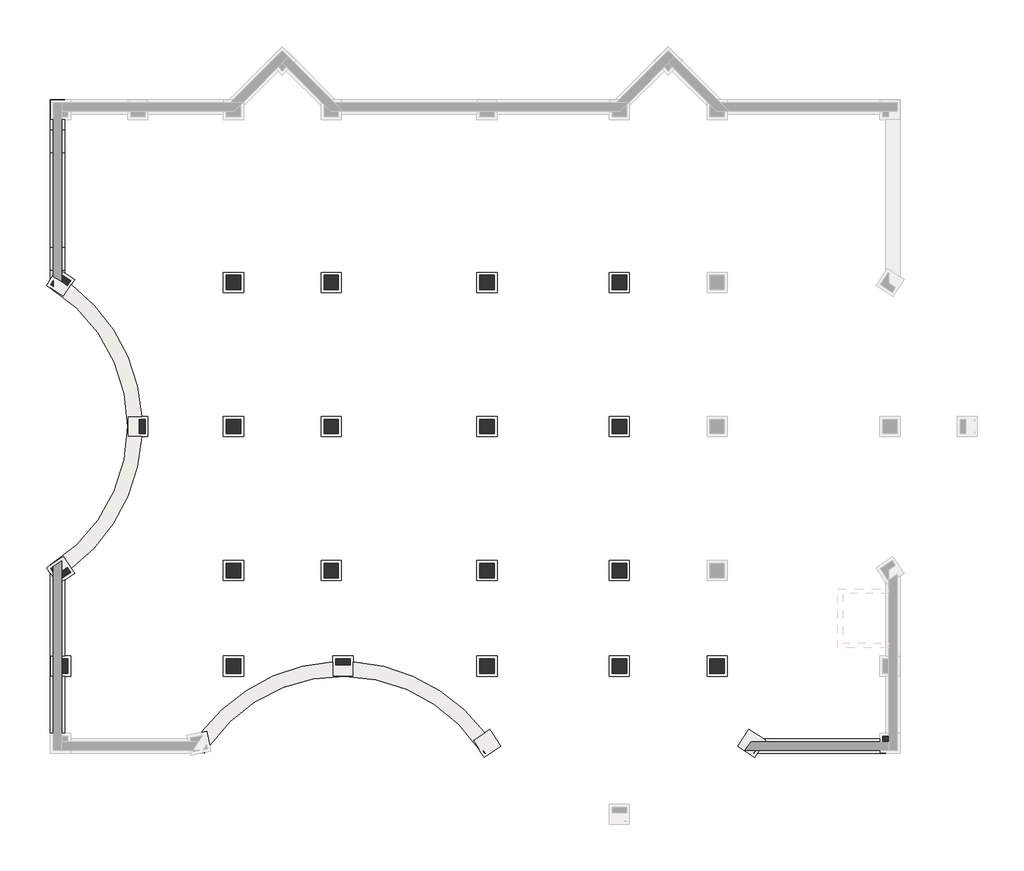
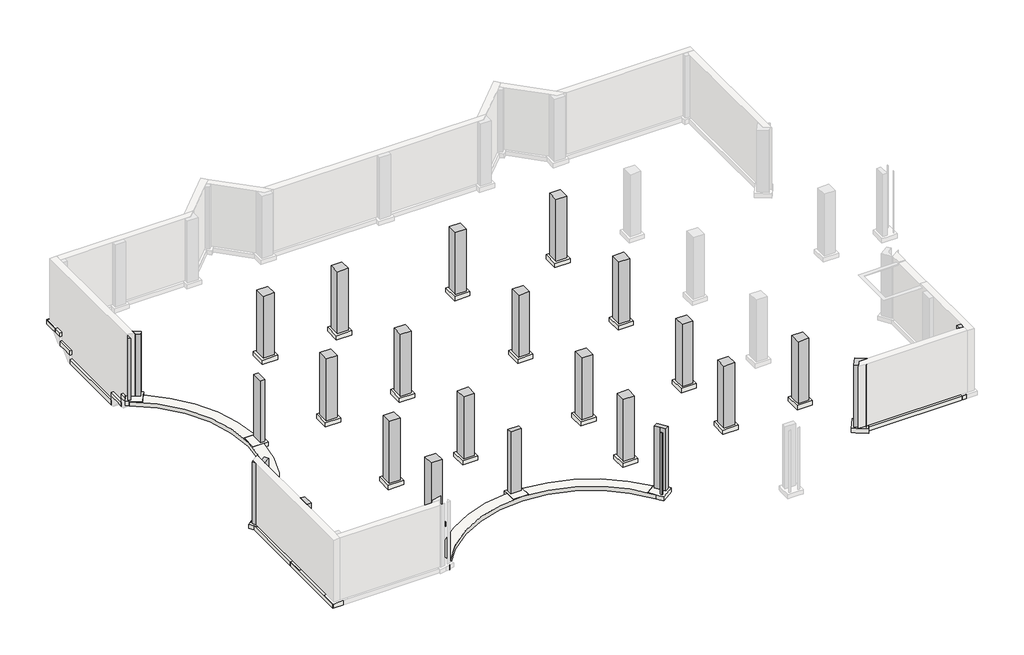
# One storey, part 2 of 3: 24 columns, 23 slabs, 5 footings.
"""IFC4 building model written with IfcOpenShell, lengths in millimetres."""

from ifc_helpers import new_model, si_unit, point, frame, frame_2d, origin, place, context, project, spatial, polyline, circle_curve, trimmed, segment, composite_curve, outline, extrude, faceted_brep, transform, mapped, element, save
from components import m_concrete_rectangular_column_762_x_762mm_e00174ba, m_footing_rectangular_1067_x_1067_x_305mm_e91fa160

model = new_model("IFC4")

# Units and contexts
model_context = context("Model", 3, world=origin())
ifc_project = project(units=[si_unit("LENGTHUNIT", "METRE", prefix="MILLI")], contexts=[model_context])

# Site, building, storey
site = spatial("IfcSite", under=ifc_project)
building = spatial("IfcBuilding", under=site)
storey = spatial("IfcBuildingStorey", under=building, Name="00 T.O.FOOTING", Elevation=-4572.0)

# Columns
placement = place(None, origin())
element("IfcColumn", 1, ObjectType="M_Concrete-Rectangular-Column : 762 x 762mm", at=placement, inside=storey, context=model_context, shape_type="SweptSolid", body=[
    extrude(outline(polyline([(536.575, 4625.575), (536.575, 3863.575), (228.5, 3863.575), (228.5, 4625.575), (536.575, 4625.575)])), frame((0.0, 0.0, -4572.0), z_axis=(0.0, 0.0, 1.0), x_axis=(1.0, 0.0, 0.0)), (0.0, 0.0, 1.0), 4572.0),
])
element("IfcColumn", 2, ObjectType="M_Concrete-Rectangular-Column : 762 x 762mm", at=placement, inside=storey, context=model_context, shape_type="SweptSolid", body=[
    extrude(outline(composite_curve([segment(polyline([(683.6806742, 9192.6806742), (228.5, 8890.7479726), (228.5, 9260.5379654)]), True, "CONTINUOUS"), segment(trimmed(circle_curve(frame_2d((-4898.9611805, 16919.575)), 9216.925), [point((228.5, 9260.5379654))], [point((509.0310463, 9455.9748948))], True, "CARTESIAN"), True, "CONTINUOUS"), segment(polyline([(509.0310463, 9455.9748948), (683.6806742, 9192.6806742)]), True, "CONTINUOUS")], self_intersect=False)), frame((0.0, 0.0, -4572.0), z_axis=(0.0, 0.0, 1.0), x_axis=(1.0, 0.0, 0.0)), (0.0, 0.0, 1.0), 4572.0),
    extrude(outline(polyline([(-228.5, 9189.3349146), (-372.5306742, 9406.4693258), (-228.5, 9502.0084667), (-228.5, 9189.3349146)])), frame((0.0, 0.0, -4572.0), z_axis=(0.0, 0.0, 1.0), x_axis=(1.0, 0.0, 0.0)), (0.0, 0.0, 1.0), 4572.0),
])
element("IfcColumn", 3, ObjectType="M_Concrete-Rectangular-Column : 762 x 762mm", at=placement, inside=storey, context=model_context, shape_type="SweptSolid", body=[
    extrude(outline(composite_curve([segment(polyline([(4625.575, 17300.575), (4625.575, 16538.575), (4310.0857547, 16538.575)]), True, "CONTINUOUS"), segment(trimmed(circle_curve(frame_2d((-4898.9611805, 16919.575)), 9216.925), [point((4310.0857547, 16538.575))], [point((4310.0857547, 17300.575))], True, "CARTESIAN"), True, "CONTINUOUS"), segment(polyline([(4310.0857547, 17300.575), (4625.575, 17300.575)]), True, "CONTINUOUS")], self_intersect=False)), frame((0.0, 0.0, -4572.0), z_axis=(0.0, 0.0, 1.0), x_axis=(1.0, 0.0, 0.0)), (0.0, 0.0, 1.0), 4572.0),
])
element("IfcColumn", 4, ObjectType="M_Concrete-Rectangular-Column : 762 x 762mm", at=placement, inside=storey, context=model_context, shape_type="SweptSolid", body=[
    extrude(outline(polyline([(-228.5, 24337.1415333), (-372.5306742, 24432.6806742), (-228.5, 24649.8150854), (-228.5, 24337.1415333)])), frame((0.0, 0.0, -4572.0), z_axis=(0.0, 0.0, 1.0), x_axis=(1.0, 0.0, 0.0)), (0.0, 0.0, 1.0), 4572.0),
    extrude(outline(composite_curve([segment(polyline([(683.6806742, 24646.4693258), (509.0310463, 24383.1751052)]), True, "CONTINUOUS"), segment(trimmed(circle_curve(frame_2d((-4898.9611805, 16919.575)), 9216.925), [point((509.0310463, 24383.1751052))], [point((228.5, 24578.6120346))], True, "CARTESIAN"), True, "CONTINUOUS"), segment(polyline([(228.5, 24578.6120346), (228.5, 24948.4020274), (683.6806742, 24646.4693258)]), True, "CONTINUOUS")], self_intersect=False)), frame((0.0, 0.0, -4572.0), z_axis=(0.0, 0.0, 1.0), x_axis=(1.0, 0.0, 0.0)), (0.0, 0.0, 1.0), 4572.0),
])
element("IfcColumn", 5, ObjectType="M_Concrete-Rectangular-Column : 762 x 762mm", at=placement, inside=storey, context=model_context, shape_type="SweptSolid", body=[
    extrude(outline(polyline([(43646.575, 536.575), (43955.9050515, 536.575), (43955.9050515, 228.5), (43646.575, 228.5), (43646.575, 536.575)])), frame((0.0, 0.0, -4572.0), z_axis=(0.0, 0.0, 1.0), x_axis=(1.0, 0.0, 0.0)), (0.0, 0.0, 1.0), 4572.0),
])
element("IfcColumn", 6, ObjectType="M_Concrete-Rectangular-Column : 762 x 762mm", at=placement, inside=storey, context=model_context, shape_type="SweptSolid", body=[
    extrude(outline(composite_curve([segment(polyline([(36919.0568544, -228.5), (36823.5716175, -372.5099589), (36817.2005535, -368.28565)]), True, "CONTINUOUS"), segment(trimmed(circle_curve(frame_2d((29712.2025257, 4799.7966199)), 8785.7880309), [point((36817.2005535, -368.28565))], [point((36916.8055284, -228.5))], True, "CARTESIAN"), True, "CONTINUOUS"), segment(polyline([(36916.8055284, -228.5), (36919.0568544, -228.5)]), True, "CONTINUOUS")], self_intersect=False)), frame((0.0, 0.0, -4572.0), z_axis=(0.0, 0.0, 1.0), x_axis=(1.0, 0.0, 0.0)), (0.0, 0.0, 1.0), 4572.0),
    extrude(outline(composite_curve([segment(polyline([(36188.4900411, 48.5783825), (36609.5783825, 683.6599589), (37244.6599589, 262.5716175), (37222.0689069, 228.5), (36674.383023, 228.5)]), True, "CONTINUOUS"), segment(trimmed(circle_curve(frame_2d((29712.2025257, 4799.7966199)), 8328.7880309), [point((36674.383023, 228.5))], [point((36435.9399442, -115.4923025))], False, "CARTESIAN"), True, "CONTINUOUS"), segment(polyline([(36435.9399442, -115.4923025), (36188.4900411, 48.5783825)]), True, "CONTINUOUS")], self_intersect=False)), frame((0.0, 0.0, -4572.0), z_axis=(0.0, 0.0, 1.0), x_axis=(1.0, 0.0, 0.0)), (0.0, 0.0, 1.0), 4572.0),
])
element("IfcColumn", 7, ObjectType="M_Concrete-Rectangular-Column : 762 x 762mm", at=placement, inside=storey, context=model_context, shape_type="SweptSolid", body=[
    extrude(outline(composite_curve([segment(polyline([(22608.1376648, -369.5683097), (22603.6737252, -372.5292676), (22518.0198315, -243.3974756)]), True, "CONTINUOUS"), segment(trimmed(circle_curve(frame_2d((29712.2025257, 4799.7966199)), 8785.7880309), [point((22518.0198315, -243.3974756))], [point((22608.1376648, -369.5683097))], True, "CARTESIAN"), True, "CONTINUOUS")], self_intersect=False)), frame((0.0, 0.0, -4572.0), z_axis=(0.0, 0.0, 1.0), x_axis=(1.0, 0.0, 0.0)), (0.0, 0.0, 1.0), 4572.0),
    extrude(outline(composite_curve([segment(polyline([(22817.4762748, 683.6792676), (23238.6792676, 48.6737252), (22989.3526284, -116.7061331)]), True, "CONTINUOUS"), segment(trimmed(circle_curve(frame_2d((29712.2025257, 4799.7966199)), 8328.7880309), [point((22989.3526284, -116.7061331))], [point((22771.5458333, 195.8858105))], False, "CARTESIAN"), True, "CONTINUOUS"), segment(trimmed(circle_curve(frame_2d((15090.775, -4898.9611805)), 9216.925), [point((22771.5458333, 195.8858105))], [point((22554.3106858, 509.1199507))], True, "CARTESIAN"), True, "CONTINUOUS"), segment(polyline([(22554.3106858, 509.1199507), (22817.4762748, 683.6792676)]), True, "CONTINUOUS")], self_intersect=False)), frame((0.0, 0.0, -4572.0), z_axis=(0.0, 0.0, 1.0), x_axis=(1.0, 0.0, 0.0)), (0.0, 0.0, 1.0), 4572.0),
])
element("IfcColumn", 8, ObjectType="M_Concrete-Rectangular-Column : 762 x 762mm", at=placement, inside=storey, context=model_context, shape_type="SweptSolid", body=[
    extrude(outline(composite_curve([segment(polyline([(14709.575, 4625.575), (15471.575, 4625.575), (15471.575, 4310.094027)]), True, "CONTINUOUS"), segment(trimmed(circle_curve(frame_2d((15090.775, -4898.9611805)), 9216.925), [point((15471.575, 4310.094027))], [point((14709.575, 4310.0774781))], True, "CARTESIAN"), True, "CONTINUOUS"), segment(polyline([(14709.575, 4310.0774781), (14709.575, 4625.575)]), True, "CONTINUOUS")], self_intersect=False)), frame((0.0, 0.0, -4572.0), z_axis=(0.0, 0.0, 1.0), x_axis=(1.0, 0.0, 0.0)), (0.0, 0.0, 1.0), 4572.0),
])
m_concrete_rectangular_column_762_x_762mm_shape = m_concrete_rectangular_column_762_x_762mm_e00174ba(model_context)
element("IfcColumn", 9, ObjectType="M_Concrete-Rectangular-Column : 762 x 762mm", at=placement, inside=storey, context=model_context, shape_type="MappedRepresentation", body=[
    mapped(m_concrete_rectangular_column_762_x_762mm_shape, transform((9299.575, 24539.575, 0.0), x_axis=(1.0, 0.0, 0.0), y_axis=(0.0, 1.0, 0.0), z_axis=(0.0, 0.0, 1.0))),
])
element("IfcColumn", 10, ObjectType="M_Concrete-Rectangular-Column : 762 x 762mm", at=placement, inside=storey, context=model_context, shape_type="MappedRepresentation", body=[
    mapped(m_concrete_rectangular_column_762_x_762mm_shape, transform((9299.575, 16919.575, 0.0), x_axis=(1.0, 0.0, 0.0), y_axis=(0.0, 1.0, 0.0), z_axis=(0.0, 0.0, 1.0))),
])
element("IfcColumn", 11, ObjectType="M_Concrete-Rectangular-Column : 762 x 762mm", at=placement, inside=storey, context=model_context, shape_type="MappedRepresentation", body=[
    mapped(m_concrete_rectangular_column_762_x_762mm_shape, transform((9299.575, 9299.575, 0.0), x_axis=(1.0, 0.0, 0.0), y_axis=(0.0, 1.0, 0.0), z_axis=(0.0, 0.0, 1.0))),
])
element("IfcColumn", 12, ObjectType="M_Concrete-Rectangular-Column : 762 x 762mm", at=placement, inside=storey, context=model_context, shape_type="MappedRepresentation", body=[
    mapped(m_concrete_rectangular_column_762_x_762mm_shape, transform((9299.575, 4244.575, 0.0), x_axis=(1.0, 0.0, 0.0), y_axis=(0.0, 1.0, 0.0), z_axis=(0.0, 0.0, 1.0))),
])
element("IfcColumn", 13, ObjectType="M_Concrete-Rectangular-Column : 762 x 762mm", at=placement, inside=storey, context=model_context, shape_type="MappedRepresentation", body=[
    mapped(m_concrete_rectangular_column_762_x_762mm_shape, transform((14471.575, 24539.575, 0.0), x_axis=(1.0, 0.0, 0.0), y_axis=(0.0, 1.0, 0.0), z_axis=(0.0, 0.0, 1.0))),
])
element("IfcColumn", 14, ObjectType="M_Concrete-Rectangular-Column : 762 x 762mm", at=placement, inside=storey, context=model_context, shape_type="MappedRepresentation", body=[
    mapped(m_concrete_rectangular_column_762_x_762mm_shape, transform((14471.575, 16919.575, 0.0), x_axis=(1.0, 0.0, 0.0), y_axis=(0.0, 1.0, 0.0), z_axis=(0.0, 0.0, 1.0))),
])
element("IfcColumn", 15, ObjectType="M_Concrete-Rectangular-Column : 762 x 762mm", at=placement, inside=storey, context=model_context, shape_type="MappedRepresentation", body=[
    mapped(m_concrete_rectangular_column_762_x_762mm_shape, transform((14471.575, 9299.575, 0.0), x_axis=(1.0, 0.0, 0.0), y_axis=(0.0, 1.0, 0.0), z_axis=(0.0, 0.0, 1.0))),
])
element("IfcColumn", 16, ObjectType="M_Concrete-Rectangular-Column : 762 x 762mm", at=placement, inside=storey, context=model_context, shape_type="MappedRepresentation", body=[
    mapped(m_concrete_rectangular_column_762_x_762mm_shape, transform((22710.575, 24539.575, 0.0), x_axis=(1.0, 0.0, 0.0), y_axis=(0.0, 1.0, 0.0), z_axis=(0.0, 0.0, 1.0))),
])
element("IfcColumn", 17, ObjectType="M_Concrete-Rectangular-Column : 762 x 762mm", at=placement, inside=storey, context=model_context, shape_type="MappedRepresentation", body=[
    mapped(m_concrete_rectangular_column_762_x_762mm_shape, transform((22710.575, 16919.575, 0.0), x_axis=(1.0, 0.0, 0.0), y_axis=(0.0, 1.0, 0.0), z_axis=(0.0, 0.0, 1.0))),
])
element("IfcColumn", 18, ObjectType="M_Concrete-Rectangular-Column : 762 x 762mm", at=placement, inside=storey, context=model_context, shape_type="MappedRepresentation", body=[
    mapped(m_concrete_rectangular_column_762_x_762mm_shape, transform((22710.575, 9299.575, 0.0), x_axis=(1.0, 0.0, 0.0), y_axis=(0.0, 1.0, 0.0), z_axis=(0.0, 0.0, 1.0))),
])
element("IfcColumn", 19, ObjectType="M_Concrete-Rectangular-Column : 762 x 762mm", at=placement, inside=storey, context=model_context, shape_type="MappedRepresentation", body=[
    mapped(m_concrete_rectangular_column_762_x_762mm_shape, transform((29711.575, 24539.575, 0.0), x_axis=(1.0, 0.0, 0.0), y_axis=(0.0, 1.0, 0.0), z_axis=(0.0, 0.0, 1.0))),
])
element("IfcColumn", 20, ObjectType="M_Concrete-Rectangular-Column : 762 x 762mm", at=placement, inside=storey, context=model_context, shape_type="MappedRepresentation", body=[
    mapped(m_concrete_rectangular_column_762_x_762mm_shape, transform((29711.575, 16919.575, 0.0), x_axis=(1.0, 0.0, 0.0), y_axis=(0.0, 1.0, 0.0), z_axis=(0.0, 0.0, 1.0))),
])
element("IfcColumn", 21, ObjectType="M_Concrete-Rectangular-Column : 762 x 762mm", at=placement, inside=storey, context=model_context, shape_type="MappedRepresentation", body=[
    mapped(m_concrete_rectangular_column_762_x_762mm_shape, transform((29711.575, 9299.575, 0.0), x_axis=(1.0, 0.0, 0.0), y_axis=(0.0, 1.0, 0.0), z_axis=(0.0, 0.0, 1.0))),
])
element("IfcColumn", 22, ObjectType="M_Concrete-Rectangular-Column : 762 x 762mm", at=placement, inside=storey, context=model_context, shape_type="MappedRepresentation", body=[
    mapped(m_concrete_rectangular_column_762_x_762mm_shape, transform((22710.575, 4244.575, 0.0), x_axis=(1.0, 0.0, 0.0), y_axis=(0.0, 1.0, 0.0), z_axis=(0.0, 0.0, 1.0))),
])
element("IfcColumn", 23, ObjectType="M_Concrete-Rectangular-Column : 762 x 762mm", at=placement, inside=storey, context=model_context, shape_type="MappedRepresentation", body=[
    mapped(m_concrete_rectangular_column_762_x_762mm_shape, transform((29711.575, 4244.575, 0.0), x_axis=(1.0, 0.0, 0.0), y_axis=(0.0, 1.0, 0.0), z_axis=(0.0, 0.0, 1.0))),
])
element("IfcColumn", 24, ObjectType="M_Concrete-Rectangular-Column : 762 x 762mm", at=placement, inside=storey, context=model_context, shape_type="MappedRepresentation", body=[
    mapped(m_concrete_rectangular_column_762_x_762mm_shape, transform((34883.575, 4244.575, 0.0), x_axis=(1.0, 0.0, 0.0), y_axis=(0.0, 1.0, 0.0), z_axis=(0.0, 0.0, 1.0))),
])

# Footings
element("IfcFooting", 25, ObjectType="Bearing Footing - 762 x 305", at=placement, inside=storey, context=model_context, shape_type="SweptSolid", body=[
    extrude(outline(polyline([(381.0, -381.0), (-381.0, -381.0), (-381.0, 9143.3544346), (5.8948876, 8560.0884457), (381.0, 8808.9050287), (381.0, 4778.075), (-377.925, 4778.075), (-377.925, 3711.075), (381.0, 3711.075), (381.0, 689.075), (-377.925, 689.075), (-377.925, -377.925), (381.0, -377.925), (381.0, -381.0)])), frame((0.0, 0.0, -4877.0), z_axis=(0.0, 0.0, 1.0), x_axis=(1.0, 0.0, 0.0)), (0.0, 0.0, 1.0), 305.0),
    extrude(outline(polyline([(-381.0, 9583.8514106), (-381.0, 9593.198549), (-373.2506488, 9588.9917487), (-381.0, 9583.8514106)])), frame((0.0, 0.0, -4877.0), z_axis=(0.0, 0.0, 1.0), x_axis=(1.0, 0.0, 0.0)), (0.0, 0.0, 1.0), 305.0),
])
element("IfcFooting", 26, ObjectType="Bearing Footing - 762 x 305", at=placement, inside=storey, context=model_context, shape_type="SweptSolid", body=[
    extrude(outline(composite_curve([segment(trimmed(circle_curve(frame_2d((-4898.9611805, 16919.575)), 8607.425), [point((-381.0, 9593.198549))], [point((-381.0, 24245.951451))], True, "CARTESIAN"), True, "CONTINUOUS"), segment(polyline([(-381.0, 24245.951451), (-373.2506488, 24250.1582513), (305.2551124, 23800.0884457), (716.3639016, 24419.8582648)]), True, "CONTINUOUS"), segment(trimmed(circle_curve(frame_2d((-4898.9611805, 16919.575)), 9369.425), [point((716.3639016, 24419.8582648))], [point((4455.2626024, 17453.075))], False, "CARTESIAN"), True, "CONTINUOUS"), segment(polyline([(4455.2626024, 17453.075), (3711.075, 17453.075), (3711.075, 16386.075), (4455.2626024, 16386.075)]), True, "CONTINUOUS"), segment(trimmed(circle_curve(frame_2d((-4898.9611805, 16919.575)), 9369.425), [point((4455.2626024, 16386.075))], [point((716.3639016, 9419.2917352))], False, "CARTESIAN"), True, "CONTINUOUS"), segment(polyline([(716.3639016, 9419.2917352), (305.2551124, 10039.0615543), (-373.2506488, 9588.9917487), (-381.0, 9593.198549)]), True, "CONTINUOUS")], self_intersect=False)), frame((0.0, 0.0, -4877.0), z_axis=(0.0, 0.0, 1.0), x_axis=(1.0, 0.0, 0.0)), (0.0, 0.0, 1.0), 305.0),
])
element("IfcFooting", 27, ObjectType="Bearing Footing - 762 x 305", at=placement, inside=storey, context=model_context, shape_type="Brep", body=[
    faceted_brep([(-381.0, 25169.9586136, -4877.0), (-381.0, 25169.9586136, -4572.0), (-66.4758159, 25169.9586136, -4572.0), (-66.4758159, 25169.9586136, -4877.0), (-381.0, 24695.7955654, -4572.0), (-381.0, 24695.7955654, -4877.0)], [[[0, 1, 2, 3]], [[1, 4, 2]], [[1, 0, 5, 4]], [[5, 0, 3]], [[2, 4, 5, 3]]]),
    faceted_brep([(381.0, 25169.9586136, -4572.0), (381.0, 25169.9586136, -4877.0), (170.3737593, 25169.9586136, -4877.0), (170.3737593, 25169.9586136, -4572.0), (381.0, 25030.2449713, -4572.0), (381.0, 25030.2449713, -4877.0)], [[[0, 1, 2, 3]], [[4, 0, 3]], [[1, 5, 2]], [[1, 0, 4, 5]], [[4, 3, 2, 5]]]),
    faceted_brep([(-381.0, 24245.951451, -4572.0), (-373.2506488, 24250.1582513, -4572.0), (-381.0, 24255.2985894, -4572.0), (-381.0, 24245.951451, -4877.0), (-381.0, 24255.2985894, -4877.0), (-373.2506488, 24250.1582513, -4877.0)], [[[0, 1, 2]], [[3, 0, 2, 4]], [[3, 4, 5]], [[0, 3, 5, 1]], [[2, 1, 5, 4]]]),
    faceted_brep([(-377.925, 34217.075, -4877.0), (-377.925, 34217.075, -4572.0), (-377.925, 33150.075, -4572.0), (-377.925, 33150.075, -4877.0), (381.0, 33150.075, -4572.0), (381.0, 33150.075, -4877.0), (381.0, 34217.075, -4877.0), (381.0, 34217.075, -4572.0), (-381.0, 32620.15, -4572.0), (-381.0, 32620.15, -4877.0), (381.0, 32620.15, -4877.0), (381.0, 32620.15, -4572.0), (-381.0, 34220.15, -4572.0), (381.0, 34220.15, -4572.0), (-381.0, 34220.15, -4877.0), (-381.0, 33430.15, -4877.0), (381.0, 34220.15, -4877.0)], [[[0, 1, 2, 3]], [[3, 2, 4, 5]], [[1, 0, 6, 7]], [[8, 9, 10, 11]], [[12, 8, 11, 4, 2, 1, 7, 13]], [[9, 8, 12, 14, 15]], [[10, 9, 15, 14, 16, 6, 0, 3, 5]], [[11, 10, 5, 4]], [[16, 13, 7, 6]], [[12, 13, 16, 14]]]),
    faceted_brep([(-381.0, 25169.9586136, -5182.0), (-381.0, 25169.9586136, -5487.0), (381.0, 25169.9586136, -5487.0), (381.0, 25169.9586136, -5182.0), (-381.0, 26388.9586136, -5487.0), (-381.0, 26388.9586136, -5182.0), (381.0, 26388.9586136, -5182.0), (381.0, 26388.9586136, -5487.0), (-381.0, 25578.9586136, -5487.0), (381.0, 25578.9586136, -5487.0)], [[[0, 1, 2, 3]], [[4, 5, 6, 7]], [[5, 0, 3, 6]], [[1, 0, 5, 4, 8]], [[2, 1, 8, 4, 7, 9]], [[3, 2, 9, 7, 6]]]),
    faceted_brep([(-381.0, 26388.9586136, -5792.0), (-381.0, 26388.9586136, -6097.0), (381.0, 26388.9586136, -6097.0), (381.0, 26388.9586136, -5792.0), (-381.0, 31401.15, -6097.0), (-381.0, 31401.15, -5792.0), (381.0, 31401.15, -5792.0), (381.0, 31401.15, -6097.0)], [[[0, 1, 2, 3]], [[4, 5, 6, 7]], [[5, 0, 3, 6]], [[1, 0, 5, 4]], [[2, 1, 4, 7]], [[3, 2, 7, 6]]]),
    faceted_brep([(-381.0, 31401.15, -5182.0), (-381.0, 31401.15, -5487.0), (381.0, 31401.15, -5487.0), (381.0, 31401.15, -5182.0), (-381.0, 32620.15, -5487.0), (-381.0, 32620.15, -5182.0), (381.0, 32620.15, -5182.0), (381.0, 32620.15, -5487.0), (-381.0, 32211.15, -5487.0), (381.0, 32211.15, -5487.0)], [[[0, 1, 2, 3]], [[4, 5, 6, 7]], [[5, 0, 3, 6]], [[1, 0, 5, 4, 8]], [[2, 1, 8, 4, 7, 9]], [[3, 2, 9, 7, 6]]]),
])
element("IfcFooting", 28, ObjectType="Bearing Footing - 762 x 305", at=placement, inside=storey, context=model_context, shape_type="SweptSolid", body=[
    extrude(outline(polyline([(43803.4050515, -377.925), (43803.4050515, -381.0), (37000.9188228, -381.0), (37456.0325475, 305.3983476), (37342.0108284, 381.0), (43494.075, 381.0), (43494.075, -377.925), (43803.4050515, -377.925)])), frame((0.0, 0.0, -4877.0), z_axis=(0.0, 0.0, 1.0), x_axis=(1.0, 0.0, 0.0)), (0.0, 0.0, 1.0), 305.0),
])
element("IfcFooting", 29, ObjectType="Bearing Footing - 762 x 305", at=placement, inside=storey, context=model_context, shape_type="SweptSolid", body=[
    extrude(outline(composite_curve([segment(polyline([(22266.0527765, -139.4203502), (22263.6291667, -141.0279911)]), True, "CONTINUOUS"), segment(trimmed(circle_curve(frame_2d((15090.775, -4898.9611805)), 8607.425), [point((22263.6291667, -141.0279911))], [point((8040.0893954, 38.2037586))], True, "CARTESIAN"), True, "CONTINUOUS"), segment(polyline([(8040.0893954, 38.2037586), (7883.7645661, 786.8585199), (7598.7213809, 727.3393268)]), True, "CONTINUOUS"), segment(trimmed(circle_curve(frame_2d((15090.775, -4898.9611805)), 9369.425), [point((7598.7213809, 727.3393268))], [point((14557.075, 4455.2511936))], False, "CARTESIAN"), True, "CONTINUOUS"), segment(polyline([(14557.075, 4455.2511936), (14557.075, 3711.075), (15624.075, 3711.075), (15624.075, 4455.2740069)]), True, "CONTINUOUS"), segment(trimmed(circle_curve(frame_2d((15090.775, -4898.9611805)), 9369.425), [point((15624.075, 4455.2740069))], [point((22590.9935606, 716.4503248))], False, "CARTESIAN"), True, "CONTINUOUS"), segment(polyline([(22590.9935606, 716.4503248), (21971.0904153, 305.2648427), (22266.0527765, -139.4203502)]), True, "CONTINUOUS")], self_intersect=False)), frame((0.0, 0.0, -4877.0), z_axis=(0.0, 0.0, 1.0), x_axis=(1.0, 0.0, 0.0)), (0.0, 0.0, 1.0), 305.0),
    extrude(outline(composite_curve([segment(trimmed(circle_curve(frame_2d((15090.775, -4898.9611805)), 8607.425), [point((7802.2589542, -320.1732425))], [point((7764.398549, -381.0))], True, "CARTESIAN"), True, "CONTINUOUS"), segment(polyline([(7764.398549, -381.0), (7738.5947592, -333.4668124), (7802.2589542, -320.1732425)]), True, "CONTINUOUS")], self_intersect=False)), frame((0.0, 0.0, -4877.0), z_axis=(0.0, 0.0, 1.0), x_axis=(1.0, 0.0, 0.0)), (0.0, 0.0, 1.0), 305.0),
])

# Slabs
element("IfcSlab", 30, ObjectType="M_Footing-Rectangular : 1067 x 1067 x 305mm", at=placement, inside=storey, context=model_context, shape_type="Brep", body=[
    faceted_brep([(689.075, 4778.075, -4572.0), (381.0, 4778.075, -4572.0), (-377.925, 4778.075, -4572.0), (-377.925, 3711.075, -4572.0), (381.0, 3711.075, -4572.0), (689.075, 3711.075, -4572.0), (689.075, 4778.075, -4877.0), (689.075, 3711.075, -4877.0), (381.0, 3711.075, -4877.0), (-377.925, 3711.075, -4877.0), (-377.925, 4778.075, -4877.0), (381.0, 4778.075, -4877.0)], [[[0, 1, 2, 3, 4, 5]], [[6, 7, 8, 9, 10, 11]], [[2, 1, 0, 6, 11, 10]], [[3, 2, 10, 9]], [[5, 4, 3, 9, 8, 7]], [[0, 5, 7, 6]]]),
])
element("IfcSlab", 31, ObjectType="M_Footing-Rectangular : 1067 x 1067 x 305mm", at=placement, inside=storey, context=model_context, shape_type="Brep", body=[
    faceted_brep([(895.0615543, 9149.8948876, -4572.0), (716.3639016, 9419.2917352, -4572.0), (305.2551124, 10039.0615543, -4572.0), (-373.2506488, 9588.9917487, -4572.0), (-381.0, 9583.8514106, -4572.0), (-583.9115543, 9449.2551124, -4572.0), (-381.0, 9143.3544346, -4572.0), (5.8948876, 8560.0884457, -4572.0), (381.0, 8808.9050287, -4572.0), (895.0615543, 9149.8948876, -4877.0), (381.0, 8808.9050287, -4877.0), (5.8948876, 8560.0884457, -4877.0), (-381.0, 9143.3544346, -4877.0), (-583.9115543, 9449.2551124, -4877.0), (-381.0, 9583.8514106, -4877.0), (-373.2506488, 9588.9917487, -4877.0), (305.2551124, 10039.0615543, -4877.0), (716.3639016, 9419.2917352, -4877.0)], [[[0, 1, 2, 3, 4, 5, 6, 7, 8]], [[9, 10, 11, 12, 13, 14, 15, 16, 17]], [[2, 1, 0, 9, 17, 16]], [[5, 4, 3, 2, 16, 15, 14, 13]], [[7, 6, 5, 13, 12, 11]], [[0, 8, 7, 11, 10, 9]]]),
])
element("IfcSlab", 32, ObjectType="M_Footing-Rectangular : 1067 x 1067 x 305mm", at=placement, inside=storey, context=model_context, shape_type="Brep", body=[
    faceted_brep([(4778.075, 17453.075, -4572.0), (4455.2626024, 17453.075, -4572.0), (3711.075, 17453.075, -4572.0), (3711.075, 16386.075, -4572.0), (4455.2626024, 16386.075, -4572.0), (4778.075, 16386.075, -4572.0), (4778.075, 17453.075, -4877.0), (4778.075, 16386.075, -4877.0), (4455.2626024, 16386.075, -4877.0), (3711.075, 16386.075, -4877.0), (3711.075, 17453.075, -4877.0), (4455.2626024, 17453.075, -4877.0)], [[[0, 1, 2, 3, 4, 5]], [[6, 7, 8, 9, 10, 11]], [[2, 1, 0, 6, 11, 10]], [[3, 2, 10, 9]], [[5, 4, 3, 9, 8, 7]], [[0, 5, 7, 6]]]),
])
element("IfcSlab", 33, ObjectType="M_Footing-Rectangular : 1067 x 1067 x 305mm", at=placement, inside=storey, context=model_context, shape_type="Brep", body=[
    faceted_brep([(5.8948876, 25279.0615543, -4572.0), (-66.4758159, 25169.9586136, -4572.0), (-381.0, 24695.7955654, -4572.0), (-583.9115543, 24389.8948876, -4572.0), (-381.0, 24255.2985894, -4572.0), (-373.2506488, 24250.1582513, -4572.0), (305.2551124, 23800.0884457, -4572.0), (716.3639016, 24419.8582648, -4572.0), (895.0615543, 24689.2551124, -4572.0), (381.0, 25030.2449713, -4572.0), (170.3737593, 25169.9586136, -4572.0), (5.8948876, 25279.0615543, -4877.0), (170.3737593, 25169.9586136, -4877.0), (381.0, 25030.2449713, -4877.0), (895.0615543, 24689.2551124, -4877.0), (716.3639016, 24419.8582648, -4877.0), (305.2551124, 23800.0884457, -4877.0), (-373.2506488, 24250.1582513, -4877.0), (-381.0, 24255.2985894, -4877.0), (-583.9115543, 24389.8948876, -4877.0), (-381.0, 24695.7955654, -4877.0), (-66.4758159, 25169.9586136, -4877.0)], [[[0, 1, 2, 3, 4, 5, 6, 7, 8, 9, 10]], [[11, 12, 13, 14, 15, 16, 17, 18, 19, 20, 21]], [[3, 2, 1, 0, 11, 21, 20, 19]], [[6, 5, 4, 3, 19, 18, 17, 16]], [[8, 7, 6, 16, 15, 14]], [[0, 10, 9, 8, 14, 13, 12, 11]]]),
])
element("IfcSlab", 34, ObjectType="M_Footing-Rectangular : 1067 x 1067 x 305mm", at=placement, inside=storey, context=model_context, shape_type="Brep", body=[
    faceted_brep([(36866.3983476, -583.8825475, -4572.0), (37000.9188228, -381.0, -4572.0), (37456.0325475, 305.3983476, -4572.0), (37342.0108284, 381.0, -4572.0), (36566.7516524, 895.0325475, -4572.0), (35977.1174525, 5.7516524, -4572.0), (36217.3123113, -153.508604, -4572.0), (36853.6342028, -575.4193315, -4572.0), (36866.3983476, -583.8825475, -4877.0), (36853.6342028, -575.4193315, -4877.0), (36217.3123113, -153.508604, -4877.0), (35977.1174525, 5.7516524, -4877.0), (36566.7516524, 895.0325475, -4877.0), (37342.0108284, 381.0, -4877.0), (37456.0325475, 305.3983476, -4877.0), (37000.9188228, -381.0, -4877.0)], [[[0, 1, 2, 3, 4, 5, 6, 7]], [[8, 9, 10, 11, 12, 13, 14, 15]], [[2, 1, 0, 8, 15, 14]], [[4, 3, 2, 14, 13, 12]], [[5, 4, 12, 11]], [[0, 7, 6, 5, 11, 10, 9, 8]]]),
])
element("IfcSlab", 35, ObjectType="M_Footing-Rectangular : 1067 x 1067 x 305mm", at=placement, inside=storey, context=model_context, shape_type="Brep", body=[
    faceted_brep([(21971.0904153, 305.2648427, -4572.0), (22266.0527765, -139.4203502, -4572.0), (22392.0152956, -329.3214172, -4572.0), (22560.8851573, -583.9095847, -4572.0), (22571.7414122, -576.7085655, -4572.0), (23207.9871212, -154.6829627, -4572.0), (23450.0595847, 5.8851573, -4572.0), (22860.2648427, 895.0595847, -4572.0), (22590.9935606, 716.4503248, -4572.0), (21971.0904153, 305.2648427, -4877.0), (22590.9935606, 716.4503248, -4877.0), (22860.2648427, 895.0595847, -4877.0), (23450.0595847, 5.8851573, -4877.0), (23207.9871212, -154.6829627, -4877.0), (22571.7414122, -576.7085655, -4877.0), (22560.8851573, -583.9095847, -4877.0), (22392.0152956, -329.3214172, -4877.0), (22266.0527765, -139.4203502, -4877.0)], [[[0, 1, 2, 3, 4, 5, 6, 7, 8]], [[9, 10, 11, 12, 13, 14, 15, 16, 17]], [[3, 2, 1, 0, 9, 17, 16, 15]], [[6, 5, 4, 3, 15, 14, 13, 12]], [[7, 6, 12, 11]], [[0, 8, 7, 11, 10, 9]]]),
])
element("IfcSlab", 36, ObjectType="M_Footing-Rectangular : 1067 x 1067 x 305mm", at=placement, inside=storey, context=model_context, shape_type="Brep", body=[
    faceted_brep([(15624.075, 4778.075, -4572.0), (14557.075, 4778.075, -4572.0), (14557.075, 4455.2511936, -4572.0), (14557.075, 3711.075, -4572.0), (15624.075, 3711.075, -4572.0), (15624.075, 4455.2740069, -4572.0), (15624.075, 4778.075, -4877.0), (15624.075, 4455.2740069, -4877.0), (15624.075, 3711.075, -4877.0), (14557.075, 3711.075, -4877.0), (14557.075, 4455.2511936, -4877.0), (14557.075, 4778.075, -4877.0)], [[[0, 1, 2, 3, 4, 5]], [[6, 7, 8, 9, 10, 11]], [[1, 0, 6, 11]], [[3, 2, 1, 11, 10, 9]], [[4, 3, 9, 8]], [[0, 5, 4, 8, 7, 6]]]),
])
m_footing_rectangular_1067_x_1067_x_305mm_shape = m_footing_rectangular_1067_x_1067_x_305mm_e91fa160(model_context)
element("IfcSlab", 37, ObjectType="M_Footing-Rectangular : 1067 x 1067 x 305mm", at=placement, inside=storey, context=model_context, shape_type="MappedRepresentation", body=[
    mapped(m_footing_rectangular_1067_x_1067_x_305mm_shape, transform((9299.575, 24539.575, -4572.0), x_axis=(1.0, 0.0, 0.0), y_axis=(0.0, 1.0, 0.0), z_axis=(0.0, 0.0, 1.0))),
])
element("IfcSlab", 38, ObjectType="M_Footing-Rectangular : 1067 x 1067 x 305mm", at=placement, inside=storey, context=model_context, shape_type="MappedRepresentation", body=[
    mapped(m_footing_rectangular_1067_x_1067_x_305mm_shape, transform((9299.575, 16919.575, -4572.0), x_axis=(1.0, 0.0, 0.0), y_axis=(0.0, 1.0, 0.0), z_axis=(0.0, 0.0, 1.0))),
])
element("IfcSlab", 39, ObjectType="M_Footing-Rectangular : 1067 x 1067 x 305mm", at=placement, inside=storey, context=model_context, shape_type="MappedRepresentation", body=[
    mapped(m_footing_rectangular_1067_x_1067_x_305mm_shape, transform((9299.575, 9299.575, -4572.0), x_axis=(1.0, 0.0, 0.0), y_axis=(0.0, 1.0, 0.0), z_axis=(0.0, 0.0, 1.0))),
])
element("IfcSlab", 40, ObjectType="M_Footing-Rectangular : 1067 x 1067 x 305mm", at=placement, inside=storey, context=model_context, shape_type="MappedRepresentation", body=[
    mapped(m_footing_rectangular_1067_x_1067_x_305mm_shape, transform((9299.575, 4244.575, -4572.0), x_axis=(1.0, 0.0, 0.0), y_axis=(0.0, 1.0, 0.0), z_axis=(0.0, 0.0, 1.0))),
])
element("IfcSlab", 41, ObjectType="M_Footing-Rectangular : 1067 x 1067 x 305mm", at=placement, inside=storey, context=model_context, shape_type="MappedRepresentation", body=[
    mapped(m_footing_rectangular_1067_x_1067_x_305mm_shape, transform((14471.575, 24539.575, -4572.0), x_axis=(1.0, 0.0, 0.0), y_axis=(0.0, 1.0, 0.0), z_axis=(0.0, 0.0, 1.0))),
])
element("IfcSlab", 42, ObjectType="M_Footing-Rectangular : 1067 x 1067 x 305mm", at=placement, inside=storey, context=model_context, shape_type="MappedRepresentation", body=[
    mapped(m_footing_rectangular_1067_x_1067_x_305mm_shape, transform((14471.575, 16919.575, -4572.0), x_axis=(1.0, 0.0, 0.0), y_axis=(0.0, 1.0, 0.0), z_axis=(0.0, 0.0, 1.0))),
])
element("IfcSlab", 43, ObjectType="M_Footing-Rectangular : 1067 x 1067 x 305mm", at=placement, inside=storey, context=model_context, shape_type="MappedRepresentation", body=[
    mapped(m_footing_rectangular_1067_x_1067_x_305mm_shape, transform((14471.575, 9299.575, -4572.0), x_axis=(1.0, 0.0, 0.0), y_axis=(0.0, 1.0, 0.0), z_axis=(0.0, 0.0, 1.0))),
])
element("IfcSlab", 44, ObjectType="M_Footing-Rectangular : 1067 x 1067 x 305mm", at=placement, inside=storey, context=model_context, shape_type="MappedRepresentation", body=[
    mapped(m_footing_rectangular_1067_x_1067_x_305mm_shape, transform((22710.575, 24539.575, -4572.0), x_axis=(1.0, 0.0, 0.0), y_axis=(0.0, 1.0, 0.0), z_axis=(0.0, 0.0, 1.0))),
])
element("IfcSlab", 45, ObjectType="M_Footing-Rectangular : 1067 x 1067 x 305mm", at=placement, inside=storey, context=model_context, shape_type="MappedRepresentation", body=[
    mapped(m_footing_rectangular_1067_x_1067_x_305mm_shape, transform((22710.575, 16919.575, -4572.0), x_axis=(1.0, 0.0, 0.0), y_axis=(0.0, 1.0, 0.0), z_axis=(0.0, 0.0, 1.0))),
])
element("IfcSlab", 46, ObjectType="M_Footing-Rectangular : 1067 x 1067 x 305mm", at=placement, inside=storey, context=model_context, shape_type="MappedRepresentation", body=[
    mapped(m_footing_rectangular_1067_x_1067_x_305mm_shape, transform((22710.575, 9299.575, -4572.0), x_axis=(1.0, 0.0, 0.0), y_axis=(0.0, 1.0, 0.0), z_axis=(0.0, 0.0, 1.0))),
])
element("IfcSlab", 47, ObjectType="M_Footing-Rectangular : 1067 x 1067 x 305mm", at=placement, inside=storey, context=model_context, shape_type="MappedRepresentation", body=[
    mapped(m_footing_rectangular_1067_x_1067_x_305mm_shape, transform((29711.575, 24539.575, -4572.0), x_axis=(1.0, 0.0, 0.0), y_axis=(0.0, 1.0, 0.0), z_axis=(0.0, 0.0, 1.0))),
])
element("IfcSlab", 48, ObjectType="M_Footing-Rectangular : 1067 x 1067 x 305mm", at=placement, inside=storey, context=model_context, shape_type="MappedRepresentation", body=[
    mapped(m_footing_rectangular_1067_x_1067_x_305mm_shape, transform((29711.575, 16919.575, -4572.0), x_axis=(1.0, 0.0, 0.0), y_axis=(0.0, 1.0, 0.0), z_axis=(0.0, 0.0, 1.0))),
])
element("IfcSlab", 49, ObjectType="M_Footing-Rectangular : 1067 x 1067 x 305mm", at=placement, inside=storey, context=model_context, shape_type="MappedRepresentation", body=[
    mapped(m_footing_rectangular_1067_x_1067_x_305mm_shape, transform((29711.575, 9299.575, -4572.0), x_axis=(1.0, 0.0, 0.0), y_axis=(0.0, 1.0, 0.0), z_axis=(0.0, 0.0, 1.0))),
])
element("IfcSlab", 50, ObjectType="M_Footing-Rectangular : 1067 x 1067 x 305mm", at=placement, inside=storey, context=model_context, shape_type="MappedRepresentation", body=[
    mapped(m_footing_rectangular_1067_x_1067_x_305mm_shape, transform((22710.575, 4244.575, -4572.0), x_axis=(1.0, 0.0, 0.0), y_axis=(0.0, 1.0, 0.0), z_axis=(0.0, 0.0, 1.0))),
])
element("IfcSlab", 51, ObjectType="M_Footing-Rectangular : 1067 x 1067 x 305mm", at=placement, inside=storey, context=model_context, shape_type="MappedRepresentation", body=[
    mapped(m_footing_rectangular_1067_x_1067_x_305mm_shape, transform((29711.575, 4244.575, -4572.0), x_axis=(1.0, 0.0, 0.0), y_axis=(0.0, 1.0, 0.0), z_axis=(0.0, 0.0, 1.0))),
])
element("IfcSlab", 52, ObjectType="M_Footing-Rectangular : 1067 x 1067 x 305mm", at=placement, inside=storey, context=model_context, shape_type="MappedRepresentation", body=[
    mapped(m_footing_rectangular_1067_x_1067_x_305mm_shape, transform((34883.575, 4244.575, -4572.0), x_axis=(1.0, 0.0, 0.0), y_axis=(0.0, 1.0, 0.0), z_axis=(0.0, 0.0, 1.0))),
])

save(model, "model.ifc")
